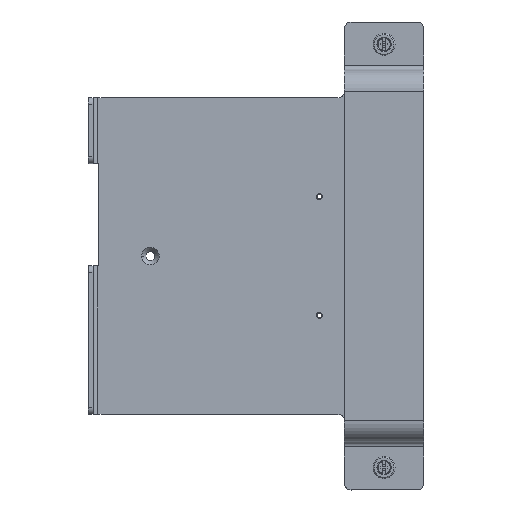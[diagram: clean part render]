
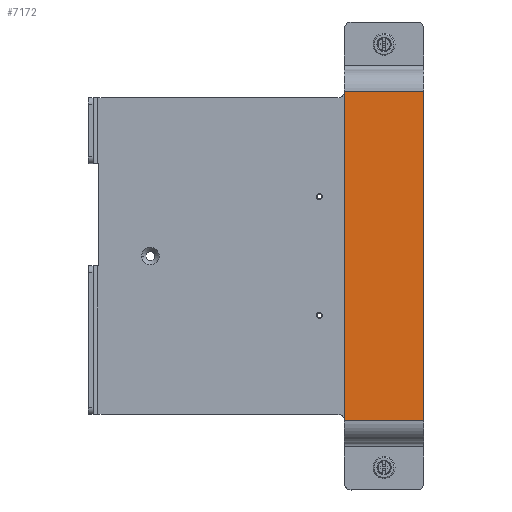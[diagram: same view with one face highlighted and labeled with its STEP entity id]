
A CAD part, top view. The second image highlights one B-rep face of the part: STEP entity #7172.
In plain terms, the highlighted planar face has unit normal (0, -0.001, 1).
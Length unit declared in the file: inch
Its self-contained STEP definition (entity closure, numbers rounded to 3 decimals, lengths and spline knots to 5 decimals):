
#1382=DIRECTION('',(-1.,0.,0.));
#1383=VECTOR('',#1382,1.5);
#1384=CARTESIAN_POINT('',(3.17489,-3.12047,1.533));
#1385=LINE('',#1384,#1383);
#1565=DIRECTION('',(-1.,0.,0.));
#1566=VECTOR('',#1565,1.5);
#1567=CARTESIAN_POINT('',(3.17489,3.11733,1.53925));
#1568=LINE('',#1567,#1566);
#1569=DIRECTION('',(0.,-1.,-0.001));
#1570=VECTOR('',#1569,6.2378);
#1571=CARTESIAN_POINT('',(3.17489,3.11733,1.53925));
#1572=LINE('',#1571,#1570);
#1573=DIRECTION('',(0.,1.,0.001));
#1574=VECTOR('',#1573,6.2378);
#1575=CARTESIAN_POINT('',(1.67489,-3.12047,1.53275));
#1576=LINE('',#1575,#1574);
#4622=CARTESIAN_POINT('',(3.17489,3.11733,1.53925));
#4624=VERTEX_POINT('',#4622);
#4626=CARTESIAN_POINT('',(1.67489,3.11733,1.539));
#4628=VERTEX_POINT('',#4626);
#4658=CARTESIAN_POINT('',(1.67489,-3.12047,1.53275));
#4659=VERTEX_POINT('',#4658);
#4660=CARTESIAN_POINT('',(3.17489,-3.12047,1.533));
#4661=VERTEX_POINT('',#4660);
#7160=CARTESIAN_POINT('',(2.42489,-0.04657,
1.53595));
#7161=DIRECTION('',(0.,0.001,-1.));
#7162=DIRECTION('',(0.,1.,0.001));
#7163=AXIS2_PLACEMENT_3D('',#7160,#7161,#7162);
#7164=PLANE('',#7163);
#7165=ORIENTED_EDGE('',*,*,#7151,.F.);
#7166=ORIENTED_EDGE('',*,*,#7125,.T.);
#7167=ORIENTED_EDGE('',*,*,#6915,.T.);
#7169=ORIENTED_EDGE('',*,*,#7168,.T.);
#7170=EDGE_LOOP('',(#7165,#7166,#7167,#7169));
#7171=FACE_OUTER_BOUND('',#7170,.F.);
#7172=ADVANCED_FACE('',(#7171),#7164,.F.);
#6915=EDGE_CURVE('',#4661,#4659,#1385,.T.);
#7125=EDGE_CURVE('',#4624,#4661,#1572,.T.);
#7151=EDGE_CURVE('',#4624,#4628,#1568,.T.);
#7168=EDGE_CURVE('',#4659,#4628,#1576,.T.);
